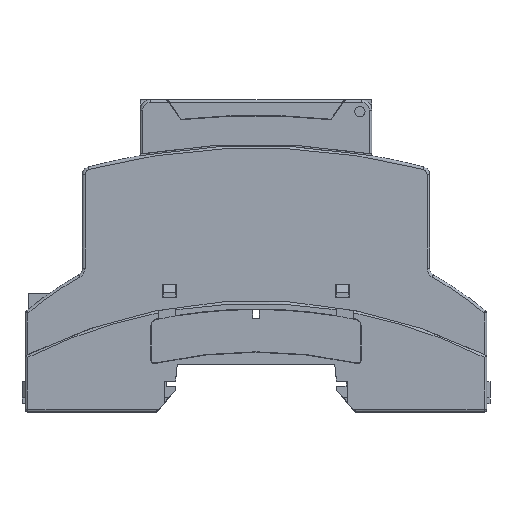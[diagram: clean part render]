
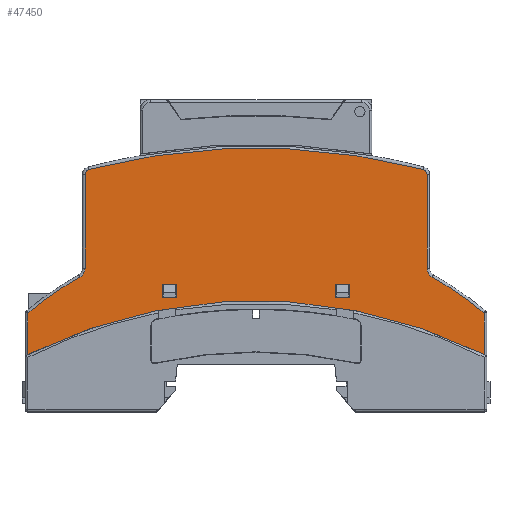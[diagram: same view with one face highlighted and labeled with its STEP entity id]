
A CAD part, top view. The second image highlights one B-rep face of the part: STEP entity #47450.
In plain terms, the highlighted planar face has unit normal (0, 0, 1) as drawn and (0, 0, -1) by its records, which use the part's own axes.
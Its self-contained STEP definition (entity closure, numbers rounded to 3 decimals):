
#37722=CARTESIAN_POINT('',(-5.65,81.6,-35.7));
#37723=DIRECTION('',(0.,0.,-1.));
#37724=DIRECTION('',(0.252,-0.968,0.));
#37725=AXIS2_PLACEMENT_3D('',#37722,#37723,#37724);
#37730=CARTESIAN_POINT('',(26.6,-42.477,-35.7));
#37731=DIRECTION('',(0.,0.,-1.));
#37732=DIRECTION('',(1.,0.,0.));
#37733=AXIS2_PLACEMENT_3D('',#37730,#37731,#37732);
#37738=CARTESIAN_POINT('',(29.6,-24.257,-35.7));
#37739=DIRECTION('',(0.,0.,1.));
#37740=DIRECTION('',(-0.493,0.87,0.));
#37741=AXIS2_PLACEMENT_3D('',#37738,#37739,#37740);
#37746=CARTESIAN_POINT('',(-5.65,37.95,-35.7));
#37747=DIRECTION('',(0.,0.,-1.));
#37748=DIRECTION('',(0.638,-0.77,0.));
#37749=AXIS2_PLACEMENT_3D('',#37746,#37747,#37748);
#37754=CARTESIAN_POINT('',(-5.65,81.6,-35.7));
#37755=DIRECTION('',(0.,0.,1.));
#37756=DIRECTION('',(-0.446,-0.895,0.));
#37757=AXIS2_PLACEMENT_3D('',#37754,#37755,#37756);
#37762=CARTESIAN_POINT('',(-5.65,37.95,-35.7));
#37763=DIRECTION('',(0.,0.,-1.));
#37764=DIRECTION('',(-0.493,-0.87,0.));
#37765=AXIS2_PLACEMENT_3D('',#37762,#37763,#37764);
#37770=CARTESIAN_POINT('',(-40.9,-24.257,-35.7));
#37771=DIRECTION('',(0.,0.,1.));
#37772=DIRECTION('',(1.,0.,0.));
#37773=AXIS2_PLACEMENT_3D('',#37770,#37771,#37772);
#37778=CARTESIAN_POINT('',(-37.9,-42.477,-35.7));
#37779=DIRECTION('',(0.,0.,-1.));
#37780=DIRECTION('',(-0.252,-0.968,0.));
#37781=AXIS2_PLACEMENT_3D('',#37778,#37779,#37780);
#37786=DIRECTION('',(1.,0.,0.));
#37787=VECTOR('',#37786,2.6);
#37788=CARTESIAN_POINT('',(9.85,-21.1,-35.7));
#37789=LINE('',#37788,#37787);
#37793=DIRECTION('',(-1.,0.,0.));
#37794=VECTOR('',#37793,2.6);
#37795=CARTESIAN_POINT('',(-21.15,-18.5,-35.7));
#37796=LINE('',#37795,#37794);
#37800=DIRECTION('',(0.,1.,0.));
#37801=VECTOR('',#37800,2.6);
#37802=CARTESIAN_POINT('',(-21.15,-21.1,-35.7));
#37803=LINE('',#37802,#37801);
#37807=DIRECTION('',(0.,-1.,0.));
#37808=VECTOR('',#37807,2.6);
#37809=CARTESIAN_POINT('',(-23.75,-18.5,-35.7));
#37810=LINE('',#37809,#37808);
#37935=DIRECTION('',(0.,1.,0.));
#37936=VECTOR('',#37935,18.22);
#37937=CARTESIAN_POINT('',(27.6,-42.477,-35.7));
#37938=LINE('',#37937,#37936);
#38017=DIRECTION('',(0.,1.,0.));
#38018=VECTOR('',#38017,8.091);
#38019=CARTESIAN_POINT('',(38.7,-15.56,-35.7));
#38020=LINE('',#38019,#38018);
#38065=DIRECTION('',(0.,-1.,0.));
#38066=VECTOR('',#38065,8.091);
#38067=CARTESIAN_POINT('',(-50.,-7.469,-35.7));
#38068=LINE('',#38067,#38066);
#38163=DIRECTION('',(0.,-1.,0.));
#38164=VECTOR('',#38163,18.22);
#38165=CARTESIAN_POINT('',(-38.9,-24.257,-35.7));
#38166=LINE('',#38165,#38164);
#38193=DIRECTION('',(0.,1.,0.));
#38194=VECTOR('',#38193,2.6);
#38195=CARTESIAN_POINT('',(9.85,-21.1,-35.7));
#38196=LINE('',#38195,#38194);
#38228=DIRECTION('',(0.,-1.,0.));
#38229=VECTOR('',#38228,2.6);
#38230=CARTESIAN_POINT('',(12.45,-18.5,-35.7));
#38231=LINE('',#38230,#38229);
#38249=DIRECTION('',(1.,0.,0.));
#38250=VECTOR('',#38249,2.6);
#38251=CARTESIAN_POINT('',(9.85,-18.5,-35.7));
#38252=LINE('',#38251,#38250);
#38291=DIRECTION('',(-1.,0.,0.));
#38292=VECTOR('',#38291,2.6);
#38293=CARTESIAN_POINT('',(-21.15,-21.1,-35.7));
#38294=LINE('',#38293,#38292);
#43514=CARTESIAN_POINT('',(27.6,-42.477,-35.7));
#43515=CARTESIAN_POINT('',(26.852,-43.445,-35.7));
#43516=VERTEX_POINT('',#43514);
#43517=VERTEX_POINT('',#43515);
#43518=CARTESIAN_POINT('',(27.6,-24.257,-35.7));
#43519=VERTEX_POINT('',#43518);
#43520=CARTESIAN_POINT('',(28.614,-22.517,-35.7));
#43521=VERTEX_POINT('',#43520);
#43522=CARTESIAN_POINT('',(38.7,-15.56,-35.7));
#43523=VERTEX_POINT('',#43522);
#43524=CARTESIAN_POINT('',(38.7,-7.469,-35.7));
#43525=VERTEX_POINT('',#43524);
#43526=CARTESIAN_POINT('',(-50.,-7.469,-35.7));
#43527=VERTEX_POINT('',#43526);
#43528=CARTESIAN_POINT('',(-50.,-15.56,-35.7));
#43529=VERTEX_POINT('',#43528);
#43530=CARTESIAN_POINT('',(-39.914,-22.517,-35.7));
#43531=VERTEX_POINT('',#43530);
#43532=CARTESIAN_POINT('',(-38.9,-24.257,-35.7));
#43533=VERTEX_POINT('',#43532);
#43534=CARTESIAN_POINT('',(-38.9,-42.477,-35.7));
#43535=VERTEX_POINT('',#43534);
#43536=CARTESIAN_POINT('',(-38.152,-43.445,-35.7));
#43537=VERTEX_POINT('',#43536);
#43538=CARTESIAN_POINT('',(9.85,-18.5,-35.7));
#43539=CARTESIAN_POINT('',(12.45,-18.5,-35.7));
#43540=VERTEX_POINT('',#43538);
#43541=VERTEX_POINT('',#43539);
#43542=CARTESIAN_POINT('',(12.45,-21.1,-35.7));
#43543=VERTEX_POINT('',#43542);
#43544=CARTESIAN_POINT('',(9.85,-21.1,-35.7));
#43545=VERTEX_POINT('',#43544);
#43546=CARTESIAN_POINT('',(-21.15,-21.1,-35.7));
#43547=CARTESIAN_POINT('',(-21.15,-18.5,-35.7));
#43548=VERTEX_POINT('',#43546);
#43549=VERTEX_POINT('',#43547);
#43550=CARTESIAN_POINT('',(-23.75,-21.1,-35.7));
#43551=VERTEX_POINT('',#43550);
#43552=CARTESIAN_POINT('',(-23.75,-18.5,-35.7));
#43553=VERTEX_POINT('',#43552);
#47401=CARTESIAN_POINT('',(12.696,-40.289,-35.7));
#47402=DIRECTION('',(0.,0.,1.));
#47403=DIRECTION('',(-1.,0.,0.));
#47404=AXIS2_PLACEMENT_3D('',#47401,#47402,#47403);
#47405=PLANE('',#47404);
#47406=ORIENTED_EDGE('',*,*,#47379,.F.);
#47408=ORIENTED_EDGE('',*,*,#47407,.F.);
#47410=ORIENTED_EDGE('',*,*,#47409,.T.);
#47412=ORIENTED_EDGE('',*,*,#47411,.F.);
#47414=ORIENTED_EDGE('',*,*,#47413,.F.);
#47416=ORIENTED_EDGE('',*,*,#47415,.T.);
#47417=ORIENTED_EDGE('',*,*,#46309,.F.);
#47419=ORIENTED_EDGE('',*,*,#47418,.T.);
#47421=ORIENTED_EDGE('',*,*,#47420,.F.);
#47423=ORIENTED_EDGE('',*,*,#47422,.F.);
#47425=ORIENTED_EDGE('',*,*,#47424,.T.);
#47427=ORIENTED_EDGE('',*,*,#47426,.F.);
#47428=EDGE_LOOP('',(#47406,#47408,#47410,#47412,#47414,#47416,#47417,#47419,
#47421,#47423,#47425,#47427));
#47429=FACE_OUTER_BOUND('',#47428,.F.);
#47431=ORIENTED_EDGE('',*,*,#47430,.T.);
#47433=ORIENTED_EDGE('',*,*,#47432,.T.);
#47435=ORIENTED_EDGE('',*,*,#47434,.T.);
#47437=ORIENTED_EDGE('',*,*,#47436,.F.);
#47438=EDGE_LOOP('',(#47431,#47433,#47435,#47437));
#47439=FACE_BOUND('',#47438,.F.);
#47441=ORIENTED_EDGE('',*,*,#47440,.F.);
#47443=ORIENTED_EDGE('',*,*,#47442,.F.);
#47445=ORIENTED_EDGE('',*,*,#47444,.T.);
#47447=ORIENTED_EDGE('',*,*,#47446,.F.);
#47448=EDGE_LOOP('',(#47441,#47443,#47445,#47447));
#47449=FACE_BOUND('',#47448,.F.);
#37726=CIRCLE('',#37725,129.2);
#37734=CIRCLE('',#37733,1.);
#37742=CIRCLE('',#37741,2.);
#37750=CIRCLE('',#37749,69.5);
#37758=CIRCLE('',#37757,99.5);
#37766=CIRCLE('',#37765,69.5);
#37774=CIRCLE('',#37773,2.);
#37782=CIRCLE('',#37781,1.);
#46309=EDGE_CURVE('',#43527,#43525,#37758,.T.);
#47379=EDGE_CURVE('',#43517,#43537,#37726,.T.);
#47407=EDGE_CURVE('',#43516,#43517,#37734,.T.);
#47409=EDGE_CURVE('',#43516,#43519,#37938,.T.);
#47411=EDGE_CURVE('',#43521,#43519,#37742,.T.);
#47413=EDGE_CURVE('',#43523,#43521,#37750,.T.);
#47415=EDGE_CURVE('',#43523,#43525,#38020,.T.);
#47418=EDGE_CURVE('',#43527,#43529,#38068,.T.);
#47420=EDGE_CURVE('',#43531,#43529,#37766,.T.);
#47422=EDGE_CURVE('',#43533,#43531,#37774,.T.);
#47424=EDGE_CURVE('',#43533,#43535,#38166,.T.);
#47426=EDGE_CURVE('',#43537,#43535,#37782,.T.);
#47430=EDGE_CURVE('',#43545,#43540,#38196,.T.);
#47432=EDGE_CURVE('',#43540,#43541,#38252,.T.);
#47434=EDGE_CURVE('',#43541,#43543,#38231,.T.);
#47436=EDGE_CURVE('',#43545,#43543,#37789,.T.);
#47440=EDGE_CURVE('',#43549,#43553,#37796,.T.);
#47442=EDGE_CURVE('',#43548,#43549,#37803,.T.);
#47444=EDGE_CURVE('',#43548,#43551,#38294,.T.);
#47446=EDGE_CURVE('',#43553,#43551,#37810,.T.);
#47450=ADVANCED_FACE('',(#47429,#47439,#47449),#47405,.F.);
